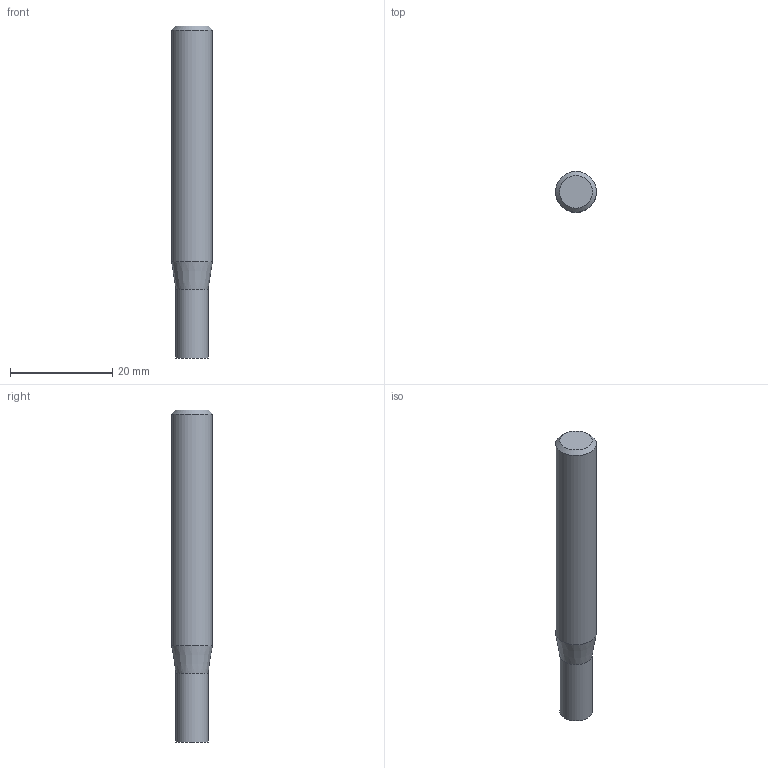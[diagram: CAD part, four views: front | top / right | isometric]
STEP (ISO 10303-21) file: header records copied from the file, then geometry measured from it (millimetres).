
FILE_DESCRIPTION((''),'2;1');
FILE_NAME('C:\Users\nsx150\AppData\Local\Temp\Mastercam 2021\98T1Q6BTT1\TEMP.step','2021-10-21T14:49:06',(''),(''),'STEP Write','Mastercam 2021 ... CNC Software, Inc.','');
FILE_SCHEMA(('AUTOMOTIVE_DESIGN'));
Length unit declared in the file: millimetre
Products named in the file (1): None
Bounding box: 8 x 8 x 65 mm (x, y, z)
Volume: 2948.7 mm3; surface area: 1679.9 mm2
Topology: 2 solids, 2 shells, 8 faces, 10 edges, 6 vertices
Faces by surface type: plane 4, cylinder 2, cone 2
Full cylindrical faces by diameter (mm): 6.3 x1, 8 x1
Entity records: 190 total; most frequent: DIRECTION 32, CARTESIAN_POINT 22, AXIS2_PLACEMENT_3D 16, ORIENTED_EDGE 12, EDGE_LOOP 12, STYLED_ITEM 11, ADVANCED_FACE 8, VERTEX_POINT 6
